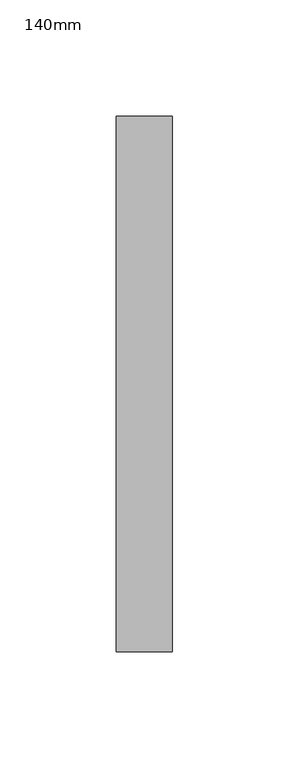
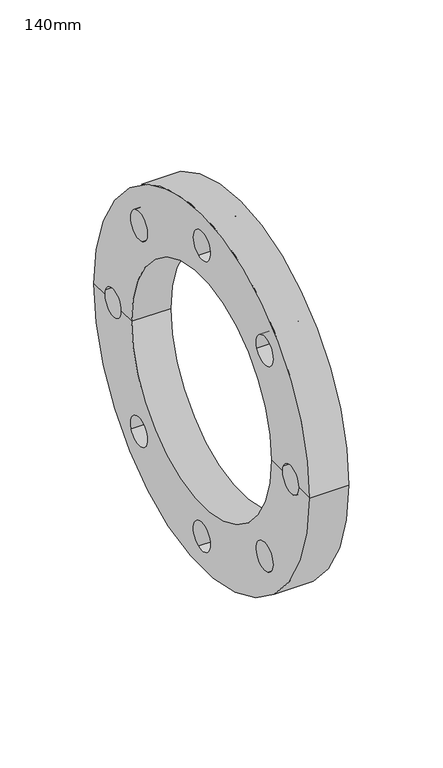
"""IFC4 building model written with IfcOpenShell, lengths in millimetres: pipe fitting geometry, Durapipe_PipeFitting_PVC_BackingFlange : 140mm."""

import ifcopenshell
import ifcopenshell.guid

model = None  # the IFC model being written
_history = None  # IfcOwnerHistory: only IFC2X3 demands one
_inside = {}  # id of a spatial element -> (the spatial element, [elements in it])
_under = {}  # id of a project, library or spatial element -> (it, [spatial elements below it])
_declared = {}  # id of a project -> (the project, [libraries it declares])
_typed = {}  # id of a type object -> (the type object, [elements of that type])
_made_of = {}  # id of a material, layer set ... -> (it, [elements and type objects made of it])


def new_model(schema):
    """Start an empty IFC model of exactly this schema.

    Asked for "IFC4X3", IfcOpenShell would pick the latest addendum, in which some entities
    have other attributes; the version numbers below select the first issue.
    IFC2X3 requires an IfcOwnerHistory on every rooted entity: one is made here for all.
    """
    global model, _history
    if schema == "IFC4X3":
        model = ifcopenshell.file(schema_version=(4, 3, 0, 0))
    else:
        model = ifcopenshell.file(schema=schema)
    _inside.clear()
    _under.clear()
    _declared.clear()
    _typed.clear()
    _made_of.clear()
    _history = None
    if model.schema == "IFC2X3":
        org = make("IfcOrganization", Name="unknown")
        user = make(
            "IfcPersonAndOrganization",
            ThePerson=make("IfcPerson", FamilyName="unknown"),
            TheOrganization=org,
        )
        app = make(
            "IfcApplication",
            ApplicationDeveloper=org,
            Version="unknown",
            ApplicationFullName="unknown",
            ApplicationIdentifier="unknown",
        )
        _history = make(
            "IfcOwnerHistory",
            OwningUser=user,
            OwningApplication=app,
            ChangeAction="ADDED",
            CreationDate=0,
        )
    return model


def make(cls, **values):
    """One entity of the class cls with the attributes given. An attribute that is None is left unset."""
    return model.create_entity(
        cls, **{name: value for name, value in values.items() if value is not None}
    )


def rooted(cls, **values):
    """An entity with a GlobalId (a new one), such as an element, a storey or a relation."""
    return make(cls, GlobalId=ifcopenshell.guid.new(), OwnerHistory=_history, **values)


def si_unit(unit_type, name, prefix=None):
    """IfcSIUnit, for example si_unit("LENGTHUNIT", "METRE", prefix="MILLI")."""
    return make("IfcSIUnit", UnitType=unit_type, Prefix=prefix, Name=name)


def assignment(units):
    """IfcUnitAssignment: the units of a project."""
    return None if units is None else make("IfcUnitAssignment", Units=units)


def point(xyz):
    """IfcCartesianPoint."""
    return None if xyz is None else make("IfcCartesianPoint", Coordinates=xyz)


def direction(xyz):
    """IfcDirection."""
    return None if xyz is None else make("IfcDirection", DirectionRatios=xyz)


def frame(location, z_axis=None, x_axis=None):
    """IfcAxis2Placement3D, a coordinate frame: its origin and axes. An axis left out is left unset."""
    return make(
        "IfcAxis2Placement3D",
        Location=point(location),
        Axis=direction(z_axis),
        RefDirection=direction(x_axis),
    )


def origin():
    """The frame at (0, 0, 0) with its axes left unset."""
    return frame((0.0, 0.0, 0.0))


def place(relative_to, where):
    """IfcLocalPlacement: puts the frame where relative to a parent placement (None: the world)."""
    return make(
        "IfcLocalPlacement", PlacementRelTo=relative_to, RelativePlacement=where
    )


def context(
    kind, dimensions, precision=None, world=None, true_north=None, identifier=None
):
    """IfcGeometricRepresentationContext, for example the 3D "Model" context."""
    return make(
        "IfcGeometricRepresentationContext",
        ContextIdentifier=identifier,
        ContextType=kind,
        CoordinateSpaceDimension=dimensions,
        Precision=precision,
        WorldCoordinateSystem=world,
        TrueNorth=true_north,
    )


def project(units=None, contexts=None):
    """IfcProject with its units and contexts."""
    return rooted(
        "IfcProject",
        Name="project",
        RepresentationContexts=contexts,
        UnitsInContext=assignment(units),
    )


def spatial(cls, under=None, at=None, **own):
    """A site, building, storey or space (cls), placed at a placement, below another one or the project."""
    s = rooted(cls, ObjectPlacement=at, **own)
    if under is not None:
        _under.setdefault(under.id(), (under, []))[1].append(s)
    return s


def polyline(points):
    """IfcPolyline through the points."""
    return make("IfcPolyline", Points=[point(p) for p in points])


def circle_curve(where, radius):
    """IfcCircle in the frame where."""
    return make("IfcCircle", Position=where, Radius=radius)


def shape(context_of_items, identifier, shape_type, items):
    """IfcShapeRepresentation: the items that make up one representation, for example the "Body"."""
    return make(
        "IfcShapeRepresentation",
        ContextOfItems=context_of_items,
        RepresentationIdentifier=identifier,
        RepresentationType=shape_type,
        Items=items,
    )


def source(mapping_origin, context_of_items, identifier, shape_type, items):
    """IfcRepresentationMap: a shape defined once, which mapped items show again and again."""
    return make(
        "IfcRepresentationMap",
        MappingOrigin=mapping_origin,
        MappedRepresentation=shape(context_of_items, identifier, shape_type, items),
    )


def transform(
    local_origin,
    x_axis=None,
    y_axis=None,
    z_axis=None,
    scale=None,
    scale2=None,
    scale3=None,
    uniform=True,
):
    """IfcCartesianTransformationOperator3D, or its non-uniform kind. x_axis, y_axis, z_axis: its Axis1, 2, 3."""
    if uniform:
        return make(
            "IfcCartesianTransformationOperator3D",
            Axis1=direction(x_axis),
            Axis2=direction(y_axis),
            LocalOrigin=point(local_origin),
            Scale=scale,
            Axis3=direction(z_axis),
        )
    return make(
        "IfcCartesianTransformationOperator3DnonUniform",
        Axis1=direction(x_axis),
        Axis2=direction(y_axis),
        LocalOrigin=point(local_origin),
        Scale=scale,
        Axis3=direction(z_axis),
        Scale2=scale2,
        Scale3=scale3,
    )


def mapped(mapping_source, mapping_target):
    """IfcMappedItem: shows the shape of a source again, moved by a transform."""
    return make(
        "IfcMappedItem", MappingSource=mapping_source, MappingTarget=mapping_target
    )


def made_of(thing, what):
    """Note that an element or type object is made of a material, layer set ...; save() writes the relation."""
    if what is not None:
        _made_of.setdefault(what.id(), (what, []))[1].append(thing)
    return thing


def element(
    cls,
    number,
    at=None,
    inside=None,
    cuts=None,
    type_object=None,
    material=None,
    context=None,
    identifier="Body",
    shape_type=None,
    held_by="IfcProductDefinitionShape",
    body=None,
    shapes=None,
    **own,
):
    """One element of the class cls, such as IfcWall. Its Tag is "e" and its number.

    at: its placement. inside: the storey or other place that contains it. cuts: it is an
    opening in that element (IfcRelVoidsElement). A single representation is given by context,
    identifier, shape_type and body (its items); several are given by shapes. held_by: the class
    of the entity that holds the representations. save() writes the other relations.
    """
    e = rooted(cls, Tag="e%d" % number, ObjectPlacement=at, **own)
    if body is not None:
        shapes = [shape(context, identifier, shape_type, body)]
    if shapes is not None:
        e.Representation = make(held_by, Representations=shapes)
    if inside is not None:
        _inside.setdefault(inside.id(), (inside, []))[1].append(e)
    if cuts is not None:
        rooted(
            "IfcRelVoidsElement", RelatingBuildingElement=cuts, RelatedOpeningElement=e
        )
    if type_object is not None:
        _typed.setdefault(type_object.id(), (type_object, []))[1].append(e)
    return made_of(e, material)


def aggregate(whole, parts):
    """IfcRelAggregates: a whole, such as a stair, and the parts it consists of."""
    return rooted("IfcRelAggregates", RelatingObject=whole, RelatedObjects=parts)


def save(model, path):
    """Write the relations noted so far, then the file.

    IfcRelAggregates (storeys below a building ...), IfcRelContainedInSpatialStructure (elements
    in a storey), IfcRelDefinesByType, IfcRelAssociatesMaterial and IfcRelDeclares: one each for
    every whole, place, type object, material and project.
    """
    for whole, parts in _under.values():
        aggregate(whole, parts)
    for where, things in _inside.values():
        rooted(
            "IfcRelContainedInSpatialStructure",
            RelatedElements=things,
            RelatingStructure=where,
        )
    for kind, things in _typed.values():
        rooted("IfcRelDefinesByType", RelatedObjects=things, RelatingType=kind)
    for what, things in _made_of.values():
        rooted("IfcRelAssociatesMaterial", RelatedObjects=things, RelatingMaterial=what)
    for by, libraries in _declared.values():
        rooted("IfcRelDeclares", RelatingContext=by, RelatedDefinitions=libraries)
    model.write(path)


def plane_surface(at):
    """IfcPlane: the flat surface through the origin of the frame at, square to its z axis."""
    return make("IfcPlane", Position=at)


def cylinder_surface(at, radius):
    """IfcCylindricalSurface: all points at the distance radius from the z axis of the frame at."""
    return make("IfcCylindricalSurface", Position=at, Radius=radius)


def revolved_surface(curve, axis_point, axis_direction):
    """IfcSurfaceOfRevolution: the curve turned about the line through axis_point along axis_direction."""
    return make(
        "IfcSurfaceOfRevolution",
        SweptCurve=make("IfcArbitraryOpenProfileDef", ProfileType="CURVE", Curve=curve),
        AxisPosition=make("IfcAxis1Placement", Location=point(axis_point), Axis=direction(axis_direction)),
    )


def advanced_brep(points, edges, surfaces, faces):
    """IfcAdvancedBrep: a solid bounded by faces that lie on surfaces and meet in shared edges.

    An edge is (start, end): straight between two places in points (the first is 0);
    or (start, end, curve); or (start, end, curve, False) where it runs against its curve.
    A face is (place in surfaces, loops), or (place, loops, False) where it looks against
    its surface's normal. A loop lists edges by number (the first is 1), with a minus sign
    where the edge is run from its end to its start. The first loop is the outer one.
    """
    corners = [point(p) for p in points]
    vertices = [make("IfcVertexPoint", VertexGeometry=c) for c in corners]
    made = []
    for start, end, *more in edges:
        made.append(
            make(
                "IfcEdgeCurve",
                EdgeStart=vertices[start],
                EdgeEnd=vertices[end],
                EdgeGeometry=more[0] if more else make("IfcPolyline", Points=[corners[start], corners[end]]),
                SameSense=more[1] if len(more) > 1 else True,
            )
        )
    hull = []
    for where, loops, *sense in faces:
        bounds = []
        for j, loop in enumerate(loops):
            ring = [make("IfcOrientedEdge", EdgeElement=made[abs(k) - 1], Orientation=k > 0) for k in loop]
            bounds.append(
                make(
                    "IfcFaceOuterBound" if j == 0 else "IfcFaceBound",
                    Bound=make("IfcEdgeLoop", EdgeList=ring),
                    Orientation=True,
                )
            )
        hull.append(make("IfcAdvancedFace", Bounds=bounds, FaceSurface=surfaces[where], SameSense=sense[0] if sense else True))
    return make("IfcAdvancedBrep", Outer=make("IfcClosedShell", CfsFaces=hull))


def pipe_fitting_140mm_c804a835(model_context):
    return source(origin(), model_context, "Body", "AdvancedBrep", [
        advanced_brep(
        [(-12.0, 115.0, 0.0), (12.0, 115.0, 0.0), (12.0, -115.0, 0.0), (-12.0, -115.0, 0.0), (-12.0, -103.5999249, 0.0), (-12.0, -102.9136299, -3.4823618), (-12.0, -85.600062, 0.0), (-12.0, -74.5, 0.0), (-12.0, 74.5, 0.0), (-12.0, 85.600062, 0.0), (-12.0, 86.286357, -3.412114), (-12.0, 103.5999249, 0.0), (-12.0, 75.2333273, -70.3085239), (-12.0, 58.6009393, -63.4263971), (-12.0, 3.4823618, -102.9136299), (-12.0, -3.412114, -86.286357), (-12.0, -70.3085239, -75.2333273), (-12.0, -63.4263971, -58.6009393), (-12.0, 102.9136299, 3.4823618), (-12.0, -86.286357, 3.412114), (-12.0, 70.3085239, 75.2333273), (-12.0, 63.4263971, 58.6009393), (-12.0, -3.4823618, 102.9136299), (-12.0, 3.412114, 86.286357), (-12.0, -75.2333273, 70.3085239), (-12.0, -58.6009393, 63.4263971), (12.0, 74.5, 0.0), (12.0, -74.5, 0.0), (12.0, -85.600062, 0.0), (12.0, -102.9136299, -3.4823618), (12.0, -103.5999249, 0.0), (12.0, 103.5999249, 0.0), (12.0, 86.286357, -3.412114), (12.0, 85.600062, 0.0), (12.0, 58.6009393, -63.4263971), (12.0, 75.2333273, -70.3085239), (12.0, -3.412114, -86.286357), (12.0, 3.4823618, -102.9136299), (12.0, -63.4263971, -58.6009393), (12.0, -70.3085239, -75.2333273), (12.0, 102.9136299, 3.4823618), (12.0, -86.286357, 3.412114), (12.0, 63.4263971, 58.6009393), (12.0, 70.3085239, 75.2333273), (12.0, 3.412114, 86.286357), (12.0, -3.4823618, 102.9136299), (12.0, -58.6009393, 63.4263971), (12.0, -75.2333273, 70.3085239)],
        [
            (0, 1),
            (1, 2, circle_curve(frame((12.0, 0.0, 0.0), z_axis=(-1.0, 0.0, 0.0), x_axis=(0.0, 1.0, 0.0)), 115.0)),
            (2, 3),
            (3, 0, circle_curve(frame((-12.0, 0.0, 0.0), z_axis=(1.0, 0.0, 0.0), x_axis=(0.0, 1.0, 0.0)), 115.0)),
            (0, 3, circle_curve(frame((-12.0, 0.0, 0.0), z_axis=(1.0, 0.0, 0.0), x_axis=(0.0, 1.0, 0.0)), 115.0)),
            (2, 1, circle_curve(frame((12.0, 0.0, 0.0), z_axis=(-1.0, 0.0, 0.0), x_axis=(0.0, 1.0, 0.0)), 115.0)),
            (3, 4),
            (4, 5, circle_curve(frame((-12.0, -94.5999935, -0.0351239), z_axis=(1.0, 0.0, 0.0), x_axis=(0.0, -0.9237373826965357, -0.38302643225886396)), 9.0)),
            (5, 6, circle_curve(frame((-12.0, -94.5999935, -0.0351239), z_axis=(1.0, 0.0, 0.0), x_axis=(0.0, -0.9237373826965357, -0.38302643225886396)), 9.0)),
            (6, 7),
            (7, 8, circle_curve(frame((-12.0, 0.0, 0.0), z_axis=(1.0, 0.0, 0.0), x_axis=(0.0, 1.0, 0.0)), 74.5)),
            (8, 9),
            (9, 10, circle_curve(frame((-12.0, 94.5999935, 0.0351239), z_axis=(1.0, 0.0, 0.0), x_axis=(0.0, 0.92373738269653, 0.38302643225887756)), 9.0)),
            (10, 11, circle_curve(frame((-12.0, 94.5999935, 0.0351239), z_axis=(1.0, 0.0, 0.0), x_axis=(0.0, 0.92373738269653, 0.38302643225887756)), 9.0)),
            (11, 0),
            (12, 13, circle_curve(frame((-12.0, 66.9171333, -66.8674605), z_axis=(1.0, 0.0, 0.0), x_axis=(0.0, 0.9240215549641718, -0.3823403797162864)), 9.0)),
            (13, 12, circle_curve(frame((-12.0, 66.9171333, -66.8674605), z_axis=(1.0, 0.0, 0.0), x_axis=(0.0, 0.9240215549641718, -0.3823403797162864)), 9.0)),
            (14, 15, circle_curve(frame((-12.0, 0.0351239, -94.5999935), z_axis=(1.0, 0.0, 0.0), x_axis=(0.0, 0.3830264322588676, -0.9237373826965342)), 9.0)),
            (15, 14, circle_curve(frame((-12.0, 0.0351239, -94.5999935), z_axis=(1.0, 0.0, 0.0), x_axis=(0.0, 0.3830264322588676, -0.9237373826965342)), 9.0)),
            (16, 17, circle_curve(frame((-12.0, -66.8674605, -66.9171333), z_axis=(1.0, 0.0, 0.0), x_axis=(0.0, -0.3823403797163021, -0.9240215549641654)), 9.0)),
            (17, 16, circle_curve(frame((-12.0, -66.8674605, -66.9171333), z_axis=(1.0, 0.0, 0.0), x_axis=(0.0, -0.3823403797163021, -0.9240215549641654)), 9.0)),
            (11, 18, circle_curve(frame((-12.0, 94.5999935, 0.0351239), z_axis=(1.0, 0.0, 0.0), x_axis=(0.0, 0.92373738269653, 0.38302643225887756)), 9.0)),
            (18, 9, circle_curve(frame((-12.0, 94.5999935, 0.0351239), z_axis=(1.0, 0.0, 0.0), x_axis=(0.0, 0.92373738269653, 0.38302643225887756)), 9.0)),
            (8, 7, circle_curve(frame((-12.0, 0.0, 0.0), z_axis=(1.0, 0.0, 0.0), x_axis=(0.0, 1.0, 0.0)), 74.5)),
            (6, 19, circle_curve(frame((-12.0, -94.5999935, -0.0351239), z_axis=(1.0, 0.0, 0.0), x_axis=(0.0, -0.9237373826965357, -0.38302643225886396)), 9.0)),
            (19, 4, circle_curve(frame((-12.0, -94.5999935, -0.0351239), z_axis=(1.0, 0.0, 0.0), x_axis=(0.0, -0.9237373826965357, -0.38302643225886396)), 9.0)),
            (20, 21, circle_curve(frame((-12.0, 66.8674605, 66.9171333), z_axis=(1.0, 0.0, 0.0), x_axis=(0.0, 0.3823403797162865, 0.9240215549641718)), 9.0)),
            (21, 20, circle_curve(frame((-12.0, 66.8674605, 66.9171333), z_axis=(1.0, 0.0, 0.0), x_axis=(0.0, 0.3823403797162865, 0.9240215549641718)), 9.0)),
            (22, 23, circle_curve(frame((-12.0, -0.0351239, 94.5999935), z_axis=(1.0, 0.0, 0.0), x_axis=(0.0, -0.38302643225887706, 0.9237373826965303)), 9.0)),
            (23, 22, circle_curve(frame((-12.0, -0.0351239, 94.5999935), z_axis=(1.0, 0.0, 0.0), x_axis=(0.0, -0.38302643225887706, 0.9237373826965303)), 9.0)),
            (24, 25, circle_curve(frame((-12.0, -66.9171333, 66.8674605), z_axis=(1.0, 0.0, 0.0), x_axis=(0.0, -0.9240215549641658, 0.38234037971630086)), 9.0)),
            (25, 24, circle_curve(frame((-12.0, -66.9171333, 66.8674605), z_axis=(1.0, 0.0, 0.0), x_axis=(0.0, -0.9240215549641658, 0.38234037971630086)), 9.0)),
            (26, 8),
            (7, 27),
            (27, 26, circle_curve(frame((12.0, 0.0, 0.0), z_axis=(1.0, 0.0, 0.0), x_axis=(0.0, 1.0, 0.0)), 74.5)),
            (26, 27, circle_curve(frame((12.0, 0.0, 0.0), z_axis=(1.0, 0.0, 0.0), x_axis=(0.0, 1.0, 0.0)), 74.5)),
            (27, 28),
            (28, 29, circle_curve(frame((12.0, -94.5999935, -0.0351239), z_axis=(-1.0, 0.0, 0.0), x_axis=(0.0, -0.9237373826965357, -0.38302643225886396)), 9.0)),
            (29, 30, circle_curve(frame((12.0, -94.5999935, -0.0351239), z_axis=(-1.0, 0.0, 0.0), x_axis=(0.0, -0.9237373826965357, -0.38302643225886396)), 9.0)),
            (30, 2),
            (1, 31),
            (31, 32, circle_curve(frame((12.0, 94.5999935, 0.0351239), z_axis=(-1.0, 0.0, 0.0), x_axis=(0.0, 0.92373738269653, 0.38302643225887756)), 9.0)),
            (32, 33, circle_curve(frame((12.0, 94.5999935, 0.0351239), z_axis=(-1.0, 0.0, 0.0), x_axis=(0.0, 0.92373738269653, 0.38302643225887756)), 9.0)),
            (33, 26),
            (34, 35, circle_curve(frame((12.0, 66.9171333, -66.8674605), z_axis=(-1.0, 0.0, 0.0), x_axis=(0.0, 0.9240215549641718, -0.3823403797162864)), 9.0)),
            (35, 34, circle_curve(frame((12.0, 66.9171333, -66.8674605), z_axis=(-1.0, 0.0, 0.0), x_axis=(0.0, 0.9240215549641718, -0.3823403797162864)), 9.0)),
            (36, 37, circle_curve(frame((12.0, 0.0351239, -94.5999935), z_axis=(-1.0, 0.0, 0.0), x_axis=(0.0, 0.3830264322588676, -0.9237373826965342)), 9.0)),
            (37, 36, circle_curve(frame((12.0, 0.0351239, -94.5999935), z_axis=(-1.0, 0.0, 0.0), x_axis=(0.0, 0.3830264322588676, -0.9237373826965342)), 9.0)),
            (38, 39, circle_curve(frame((12.0, -66.8674605, -66.9171333), z_axis=(-1.0, 0.0, 0.0), x_axis=(0.0, -0.3823403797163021, -0.9240215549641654)), 9.0)),
            (39, 38, circle_curve(frame((12.0, -66.8674605, -66.9171333), z_axis=(-1.0, 0.0, 0.0), x_axis=(0.0, -0.3823403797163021, -0.9240215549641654)), 9.0)),
            (33, 40, circle_curve(frame((12.0, 94.5999935, 0.0351239), z_axis=(-1.0, 0.0, 0.0), x_axis=(0.0, 0.92373738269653, 0.38302643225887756)), 9.0)),
            (40, 31, circle_curve(frame((12.0, 94.5999935, 0.0351239), z_axis=(-1.0, 0.0, 0.0), x_axis=(0.0, 0.92373738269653, 0.38302643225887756)), 9.0)),
            (30, 41, circle_curve(frame((12.0, -94.5999935, -0.0351239), z_axis=(-1.0, 0.0, 0.0), x_axis=(0.0, -0.9237373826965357, -0.38302643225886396)), 9.0)),
            (41, 28, circle_curve(frame((12.0, -94.5999935, -0.0351239), z_axis=(-1.0, 0.0, 0.0), x_axis=(0.0, -0.9237373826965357, -0.38302643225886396)), 9.0)),
            (42, 43, circle_curve(frame((12.0, 66.8674605, 66.9171333), z_axis=(-1.0, 0.0, 0.0), x_axis=(0.0, 0.3823403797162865, 0.9240215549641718)), 9.0)),
            (43, 42, circle_curve(frame((12.0, 66.8674605, 66.9171333), z_axis=(-1.0, 0.0, 0.0), x_axis=(0.0, 0.3823403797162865, 0.9240215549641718)), 9.0)),
            (44, 45, circle_curve(frame((12.0, -0.0351239, 94.5999935), z_axis=(-1.0, 0.0, 0.0), x_axis=(0.0, -0.38302643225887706, 0.9237373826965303)), 9.0)),
            (45, 44, circle_curve(frame((12.0, -0.0351239, 94.5999935), z_axis=(-1.0, 0.0, 0.0), x_axis=(0.0, -0.38302643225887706, 0.9237373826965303)), 9.0)),
            (46, 47, circle_curve(frame((12.0, -66.9171333, 66.8674605), z_axis=(-1.0, 0.0, 0.0), x_axis=(0.0, -0.9240215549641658, 0.38234037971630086)), 9.0)),
            (47, 46, circle_curve(frame((12.0, -66.9171333, 66.8674605), z_axis=(-1.0, 0.0, 0.0), x_axis=(0.0, -0.9240215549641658, 0.38234037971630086)), 9.0)),
            (36, 15),
            (14, 37),
            (34, 13),
            (12, 35),
            (32, 10),
            (18, 40),
            (42, 21),
            (20, 43),
            (44, 23),
            (22, 45),
            (46, 25),
            (24, 47),
            (41, 19),
            (5, 29),
            (38, 17),
            (16, 39),
        ],
        [
            cylinder_surface(frame((-30.7738734, 0.0, 0.0), z_axis=(-1.0, 0.0, 0.0), x_axis=(0.0, 1.0, 0.0)), 115.0),
            plane_surface(frame((-12.0, 0.0, 0.0), z_axis=(-1.0, 0.0, 0.0), x_axis=(0.0, 1.0, 0.0))),
            revolved_surface(polyline([(-12.0, 74.5, 0.0), (12.0, 74.5, 0.0)]), (-30.7738734, 0.0, 0.0), (-1.0, 0.0, 0.0)),
            plane_surface(frame((12.0, 0.0, 0.0), z_axis=(1.0, 0.0, 0.0), x_axis=(0.0, 1.0, 0.0))),
            revolved_surface(polyline([(-12.000000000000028, 3.4823617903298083, -102.9136299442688), (11.999999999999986, 3.4823617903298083, -102.9136299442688)]), (38.0, 0.0351239, -94.5999935), (-1.0000000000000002, 0.0, 0.0)),
            revolved_surface(polyline([(-12.0, 75.23332729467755, -70.30852391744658), (12.0, 75.23332729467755, -70.30852391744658)]), (38.0, 66.9171333, -66.8674605), (-1.0, 0.0, 0.0)),
            revolved_surface(polyline([(-12.0, 102.91362994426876, 3.482361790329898), (12.0, 102.91362994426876, 3.482361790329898)]), (38.0, 94.5999935, 0.0351239), (-1.0, 0.0, 0.0)),
            revolved_surface(polyline([(-12.000000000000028, 70.30852391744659, 75.23332729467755), (11.999999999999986, 70.30852391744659, 75.23332729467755)]), (38.0, 66.8674605, 66.9171333), (-1.0000000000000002, 0.0, 0.0)),
            revolved_surface(polyline([(-12.000000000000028, -3.4823617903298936, 102.91362994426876), (11.999999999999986, -3.4823617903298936, 102.91362994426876)]), (38.0, -0.0351239, 94.5999935), (-1.0000000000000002, 0.0, 0.0)),
            revolved_surface(polyline([(-12.0, -75.2333272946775, 70.30852391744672), (12.0, -75.2333272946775, 70.30852391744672)]), (38.0, -66.9171333, 66.8674605), (-1.0, 0.0, 0.0)),
            revolved_surface(polyline([(-12.000000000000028, -102.91362994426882, -3.4823617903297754), (11.999999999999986, -102.91362994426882, -3.4823617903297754)]), (38.0, -94.5999935, -0.0351239), (-1.0000000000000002, 0.0, 0.0)),
            revolved_surface(polyline([(-12.000000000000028, -70.30852391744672, -75.2333272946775), (11.999999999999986, -70.30852391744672, -75.2333272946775)]), (38.0, -66.8674605, -66.9171333), (-1.0000000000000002, 0.0, 0.0)),
        ],
        [
            (0, [[1, 2, 3, 4]]),
            (0, [[-1, 5, -3, 6]]),
            (1, [[-4, 7, 8, 9, 10, 11, 12, 13, 14, 15], [16, 17], [18, 19], [20, 21]]),
            (1, [[-5, -15, 22, 23, -12, 24, -10, 25, 26, -7], [27, 28], [29, 30], [31, 32]]),
            (2, [[33, -11, 34, 35]]),
            (2, [[-33, 36, -34, -24]]),
            (3, [[-35, 37, 38, 39, 40, -2, 41, 42, 43, 44], [45, 46], [47, 48], [49, 50]]),
            (3, [[-36, -44, 51, 52, -41, -6, -40, 53, 54, -37], [55, 56], [57, 58], [59, 60]]),
            (4, [[61, -18, 62, -47]]),
            (4, [[-61, -48, -62, -19]]),
            (5, [[63, -16, 64, -45]]),
            (5, [[-63, -46, -64, -17]]),
            (6, [[65, -13, -23, 66, -51, -43]]),
            (6, [[-65, -42, -52, -66, -22, -14]]),
            (7, [[67, -27, 68, -55]]),
            (7, [[-67, -56, -68, -28]]),
            (8, [[69, -29, 70, -57]]),
            (8, [[-69, -58, -70, -30]]),
            (9, [[71, -31, 72, -59]]),
            (9, [[-71, -60, -72, -32]]),
            (10, [[73, -25, -9, 74, -38, -54]]),
            (10, [[-73, -53, -39, -74, -8, -26]]),
            (11, [[75, -20, 76, -49]]),
            (11, [[-75, -50, -76, -21]]),
        ],
    ),
    ])


if __name__ == "__main__":
    model = new_model("IFC4")
    model_context = context("Model", 3, world=origin())
    ifc_project = project(units=[si_unit("LENGTHUNIT", "METRE", prefix="MILLI")], contexts=[model_context])
    site = spatial("IfcSite", under=ifc_project)
    building = spatial("IfcBuilding", under=site)
    placement = place(None, origin())
    pipe_fitting_140mm_shape = pipe_fitting_140mm_c804a835(model_context)
    element("IfcPipeFitting", 1, ObjectType="Durapipe_PipeFitting_PVC_BackingFlange : 140mm", at=placement, inside=building, context=model_context, shape_type="MappedRepresentation", body=[
        mapped(pipe_fitting_140mm_shape, transform((0.0, 0.0, 0.0), x_axis=(1.0, 0.0, 0.0), y_axis=(0.0, 1.0, 0.0), z_axis=(0.0, 0.0, 1.0))),
    ])
    save(model, "model.ifc")
